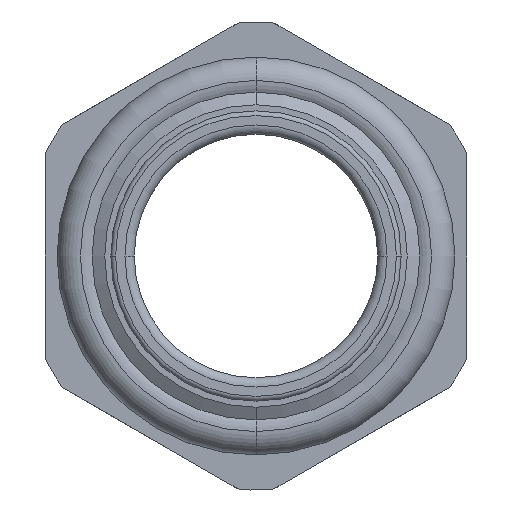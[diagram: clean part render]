
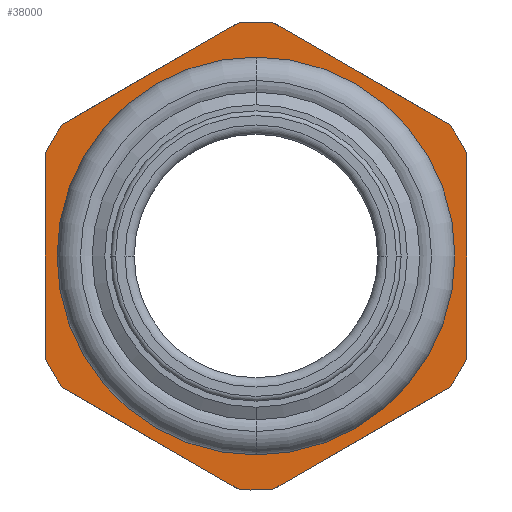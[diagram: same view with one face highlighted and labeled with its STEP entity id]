
A CAD part, left-side view. The second image highlights one B-rep face of the part: STEP entity #38000.
In plain terms, the highlighted planar face has unit normal (-1, 0, 0).
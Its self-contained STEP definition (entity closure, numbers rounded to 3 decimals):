
#33060=CARTESIAN_POINT('',(4.5,0.,0.));
#33070=DIRECTION('',(1.,0.,0.));
#33080=DIRECTION('',(0.,0.,-1.));
#33090=AXIS2_PLACEMENT_3D('',#33060,#33070,#33080);
#33100=CIRCLE('',#33090,5.);
#33110=CARTESIAN_POINT('',(4.5,-4.137,
2.807));
#33120=VERTEX_POINT('',#33110);
#33130=CARTESIAN_POINT('',(4.5,-4.5,
2.179));
#33140=VERTEX_POINT('',#33130);
#33150=EDGE_CURVE('',#33120,#33140,#33100,.T.);
#33520=CARTESIAN_POINT('',(4.5,4.25,0.))
;
#33530=VERTEX_POINT('',#33520);
#33580=CARTESIAN_POINT('',(4.5,0.,0.));
#33590=DIRECTION('',(1.,0.,0.));
#33600=DIRECTION('',(0.,-1.,0.));
#33610=AXIS2_PLACEMENT_3D('',#33580,#33590,#33600);
#33620=CIRCLE('',#33610,4.25);
#33630=CARTESIAN_POINT('',(4.5,-4.25,0.));
#33640=VERTEX_POINT('',#33630);
#33650=EDGE_CURVE('',#33530,#33640,#33620,.T.);
#36300=CARTESIAN_POINT('',(4.5,-4.137,
-2.807));
#36310=VERTEX_POINT('',#36300);
#36340=CARTESIAN_POINT('',(4.5,0.,0.));
#36350=DIRECTION('',(1.,0.,0.));
#36360=DIRECTION('',(0.,0.,-1.));
#36370=AXIS2_PLACEMENT_3D('',#36340,#36350,#36360);
#36380=CIRCLE('',#36370,5.);
#36390=CARTESIAN_POINT('',(4.5,-4.5,
-2.179));
#36400=VERTEX_POINT('',#36390);
#36410=EDGE_CURVE('',#36400,#36310,#36380,.T.);
#37060=CARTESIAN_POINT('',(4.5,4.625,0.));
#37070=DIRECTION('',(1.,0.,0.));
#37080=DIRECTION('',(0.,-1.,0.));
#37090=AXIS2_PLACEMENT_3D('',#37060,#37070,#37080);
#37100=PLANE('',#37090);
#37110=CARTESIAN_POINT('',(4.5,0.,0.));
#37120=DIRECTION('',(1.,0.,0.));
#37130=DIRECTION('',(0.,0.,-1.));
#37140=AXIS2_PLACEMENT_3D('',#37110,#37120,#37130);
#37150=CIRCLE('',#37140,5.);
#37160=CARTESIAN_POINT('',(4.5,0.363,
4.987));
#37170=VERTEX_POINT('',#37160);
#37180=CARTESIAN_POINT('',(4.5,-0.363,
4.987));
#37190=VERTEX_POINT('',#37180);
#37200=EDGE_CURVE('',#37170,#37190,#37150,.T.);
#37210=ORIENTED_EDGE('',*,*,#37200,.F.);
#37220=CARTESIAN_POINT('',(4.5,0.,5.196));
#37230=DIRECTION('',(0.,-0.866,-0.5));
#37240=VECTOR('',#37230,1.);
#37250=LINE('',#37220,#37240);
#37260=EDGE_CURVE('',#37190,#33120,#37250,.T.);
#37270=ORIENTED_EDGE('',*,*,#37260,.F.);
#37280=ORIENTED_EDGE('',*,*,#33150,.F.);
#37290=CARTESIAN_POINT('',(4.5,-4.5,0.));
#37300=DIRECTION('',(0.,0.,-1.));
#37310=VECTOR('',#37300,1.);
#37320=LINE('',#37290,#37310);
#37330=EDGE_CURVE('',#33140,#36400,#37320,.T.);
#37340=ORIENTED_EDGE('',*,*,#37330,.F.);
#37350=ORIENTED_EDGE('',*,*,#36410,.F.);
#37360=CARTESIAN_POINT('',(4.5,0.,-5.196));
#37370=DIRECTION('',(0.,0.866,-0.5));
#37380=VECTOR('',#37370,1.);
#37390=LINE('',#37360,#37380);
#37400=CARTESIAN_POINT('',(4.5,-0.363,
-4.987));
#37410=VERTEX_POINT('',#37400);
#37420=EDGE_CURVE('',#36310,#37410,#37390,.T.);
#37430=ORIENTED_EDGE('',*,*,#37420,.F.);
#37440=CARTESIAN_POINT('',(4.5,0.,0.));
#37450=DIRECTION('',(1.,0.,0.));
#37460=DIRECTION('',(0.,0.,-1.));
#37470=AXIS2_PLACEMENT_3D('',#37440,#37450,#37460);
#37480=CIRCLE('',#37470,5.);
#37490=CARTESIAN_POINT('',(4.5,0.363,
-4.987));
#37500=VERTEX_POINT('',#37490);
#37510=EDGE_CURVE('',#37410,#37500,#37480,.T.);
#37520=ORIENTED_EDGE('',*,*,#37510,.F.);
#37530=CARTESIAN_POINT('',(4.5,0.,-5.196));
#37540=DIRECTION('',(0.,0.866,0.5));
#37550=VECTOR('',#37540,1.);
#37560=LINE('',#37530,#37550);
#37570=CARTESIAN_POINT('',(4.5,4.137,
-2.807));
#37580=VERTEX_POINT('',#37570);
#37590=EDGE_CURVE('',#37500,#37580,#37560,.T.);
#37600=ORIENTED_EDGE('',*,*,#37590,.F.);
#37610=CARTESIAN_POINT('',(4.5,0.,0.));
#37620=DIRECTION('',(1.,0.,0.));
#37630=DIRECTION('',(0.,0.,-1.));
#37640=AXIS2_PLACEMENT_3D('',#37610,#37620,#37630);
#37650=CIRCLE('',#37640,5.);
#37660=CARTESIAN_POINT('',(4.5,4.5,
-2.179));
#37670=VERTEX_POINT('',#37660);
#37680=EDGE_CURVE('',#37580,#37670,#37650,.T.);
#37690=ORIENTED_EDGE('',*,*,#37680,.F.);
#37700=CARTESIAN_POINT('',(4.5,4.5,0.));
#37710=DIRECTION('',(0.,0.,1.));
#37720=VECTOR('',#37710,1.);
#37730=LINE('',#37700,#37720);
#37740=CARTESIAN_POINT('',(4.5,4.5,
2.179));
#37750=VERTEX_POINT('',#37740);
#37760=EDGE_CURVE('',#37670,#37750,#37730,.T.);
#37770=ORIENTED_EDGE('',*,*,#37760,.F.);
#37780=CARTESIAN_POINT('',(4.5,0.,0.));
#37790=DIRECTION('',(1.,0.,0.));
#37800=DIRECTION('',(0.,0.,-1.));
#37810=AXIS2_PLACEMENT_3D('',#37780,#37790,#37800);
#37820=CIRCLE('',#37810,5.);
#37830=CARTESIAN_POINT('',(4.5,4.137,
2.807));
#37840=VERTEX_POINT('',#37830);
#37850=EDGE_CURVE('',#37750,#37840,#37820,.T.);
#37860=ORIENTED_EDGE('',*,*,#37850,.F.);
#37870=CARTESIAN_POINT('',(4.5,0.,5.196));
#37880=DIRECTION('',(0.,-0.866,0.5));
#37890=VECTOR('',#37880,1.);
#37900=LINE('',#37870,#37890);
#37910=EDGE_CURVE('',#37840,#37170,#37900,.T.);
#37920=ORIENTED_EDGE('',*,*,#37910,.F.);
#37930=EDGE_LOOP('',(#37920,#37860,#37770,#37690,#37600,#37520,#37430,
#37350,#37340,#37280,#37270,#37210));
#37940=FACE_OUTER_BOUND('',#37930,.T.);
#37950=ORIENTED_EDGE('',*,*,#33650,.T.);
#37960=EDGE_CURVE('',#33640,#33530,#33620,.T.);
#37970=ORIENTED_EDGE('',*,*,#37960,.T.);
#37980=EDGE_LOOP('',(#37970,#37950));
#37990=FACE_BOUND('',#37980,.T.);
#38000=ADVANCED_FACE('',(#37940,#37990),#37100,.F.);
